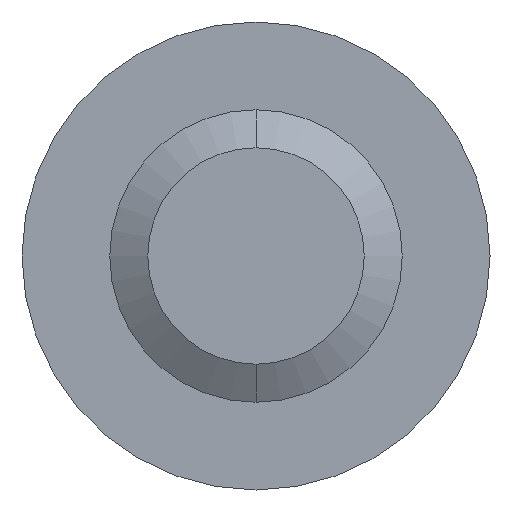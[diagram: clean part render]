
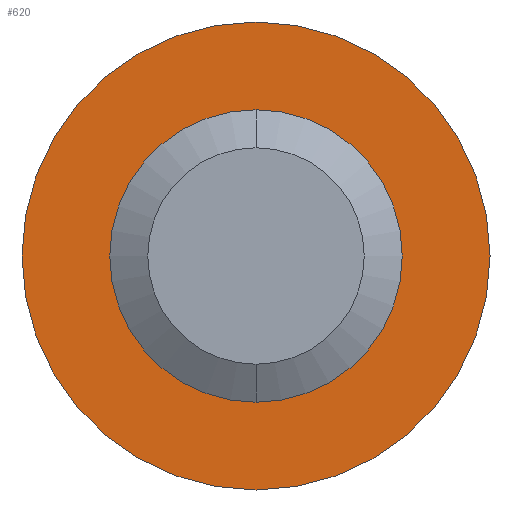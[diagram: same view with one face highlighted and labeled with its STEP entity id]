
A CAD part, front view. The second image highlights one B-rep face of the part: STEP entity #620.
In plain terms, the highlighted planar face has unit normal (0, -1, 0).
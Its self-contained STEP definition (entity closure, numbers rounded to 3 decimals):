
#16 = EDGE_CURVE ( 'NONE', #322, #1366, #431, .T. ) ;
#65 = DIRECTION ( 'NONE',  ( 0., 1., 0. ) ) ;
#212 = EDGE_LOOP ( 'NONE', ( #827, #2355 ) ) ;
#222 = FACE_BOUND ( 'NONE', #212, .T. ) ;
#244 = CARTESIAN_POINT ( 'NONE',  ( 0., 25., -5. ) ) ;
#322 = VERTEX_POINT ( 'NONE', #244 ) ;
#345 = DIRECTION ( 'NONE',  ( 0., 0., 1. ) ) ;
#404 = DIRECTION ( 'NONE',  ( 0., 1., 0. ) ) ;
#416 = CARTESIAN_POINT ( 'NONE',  ( 0., 25., 0. ) ) ;
#431 = CIRCLE ( 'NONE', #2194, 5. ) ;
#565 = AXIS2_PLACEMENT_3D ( 'NONE', #1986, #65, #1592 ) ;
#612 = CARTESIAN_POINT ( 'NONE',  ( 0., 25., -8. ) ) ;
#620 = ADVANCED_FACE ( 'NONE', ( #2319, #222 ), #1563, .F. ) ;
#766 = CARTESIAN_POINT ( 'NONE',  ( 0., 25., 0. ) ) ;
#827 = ORIENTED_EDGE ( 'NONE', *, *, #16, .T. ) ;
#1005 = CIRCLE ( 'NONE', #565, 8. ) ;
#1121 = CARTESIAN_POINT ( 'NONE',  ( 0., 25., 0. ) ) ;
#1185 = CARTESIAN_POINT ( 'NONE',  ( 0., 25., 8. ) ) ;
#1187 = DIRECTION ( 'NONE',  ( 0., 0., 1. ) ) ;
#1258 = VERTEX_POINT ( 'NONE', #612 ) ;
#1259 = EDGE_CURVE ( 'NONE', #1366, #322, #2326, .T. ) ;
#1319 = EDGE_CURVE ( 'NONE', #2133, #1258, #1005, .T. ) ;
#1366 = VERTEX_POINT ( 'NONE', #2186 ) ;
#1367 = DIRECTION ( 'NONE',  ( 0., 0., 1. ) ) ;
#1375 = DIRECTION ( 'NONE',  ( 0., 1., 0. ) ) ;
#1399 = AXIS2_PLACEMENT_3D ( 'NONE', #766, #1526, #1367 ) ;
#1477 = EDGE_LOOP ( 'NONE', ( #1846, #1779 ) ) ;
#1526 = DIRECTION ( 'NONE',  ( 0., 1., 0. ) ) ;
#1563 = PLANE ( 'NONE',  #1399 ) ;
#1592 = DIRECTION ( 'NONE',  ( 0., 0., 1. ) ) ;
#1689 = AXIS2_PLACEMENT_3D ( 'NONE', #416, #404, #1187 ) ;
#1779 = ORIENTED_EDGE ( 'NONE', *, *, #1319, .F. ) ;
#1838 = AXIS2_PLACEMENT_3D ( 'NONE', #2352, #1375, #2138 ) ;
#1846 = ORIENTED_EDGE ( 'NONE', *, *, #2425, .F. ) ;
#1986 = CARTESIAN_POINT ( 'NONE',  ( 0., 25., 0. ) ) ;
#2133 = VERTEX_POINT ( 'NONE', #1185 ) ;
#2138 = DIRECTION ( 'NONE',  ( 0., 0., 1. ) ) ;
#2186 = CARTESIAN_POINT ( 'NONE',  ( 0., 25., 5. ) ) ;
#2194 = AXIS2_PLACEMENT_3D ( 'NONE', #1121, #2484, #345 ) ;
#2319 = FACE_OUTER_BOUND ( 'NONE', #1477, .T. ) ;
#2326 = CIRCLE ( 'NONE', #1838, 5. ) ;
#2352 = CARTESIAN_POINT ( 'NONE',  ( 0., 25., 0. ) ) ;
#2355 = ORIENTED_EDGE ( 'NONE', *, *, #1259, .T. ) ;
#2373 = CIRCLE ( 'NONE', #1689, 8. ) ;
#2425 = EDGE_CURVE ( 'NONE', #1258, #2133, #2373, .T. ) ;
#2484 = DIRECTION ( 'NONE',  ( 0., 1., 0. ) ) ;
